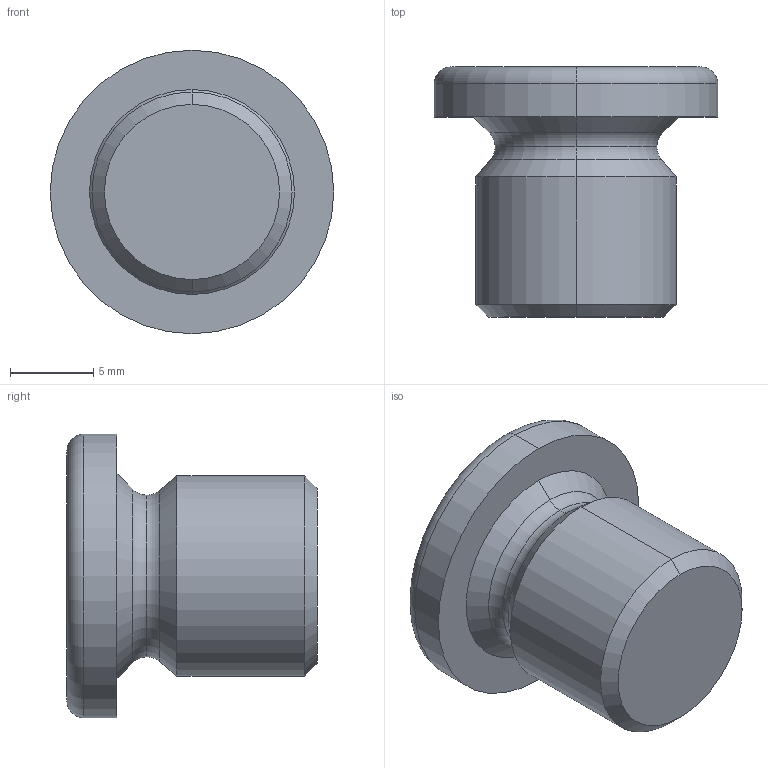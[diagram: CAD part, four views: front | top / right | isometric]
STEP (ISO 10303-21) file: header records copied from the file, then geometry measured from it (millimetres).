
FILE_DESCRIPTION (( 'STEP AP214' ), '1' );
FILE_NAME ('908-ST-M12x1,5-A.step', '2024-12-19T09:17:12', ( '' ), ( '' ), 'SwSTEP 2.0', 'SolidWorks 2022', '' );
FILE_SCHEMA (( 'AUTOMOTIVE_DESIGN' ));
Length unit declared in the file: millimetre
Products named in the file (1): 908-ST-M12x1,5-A
Bounding box: 17 x 15 x 17 mm (x, y, z)
Volume: 1713 mm3; surface area: 1180.5 mm2
Topology: 1 solids, 1 shells, 26 faces, 54 edges, 32 vertices
Faces by surface type: plane 10, torus 6, cone 6, cylinder 4
Entity records: 744 total; most frequent: DIRECTION 134, CARTESIAN_POINT 113, ORIENTED_EDGE 108, EDGE_CURVE 54, AXIS2_PLACEMENT_3D 53, VERTEX_POINT 32, EDGE_LOOP 28, VECTOR 28
